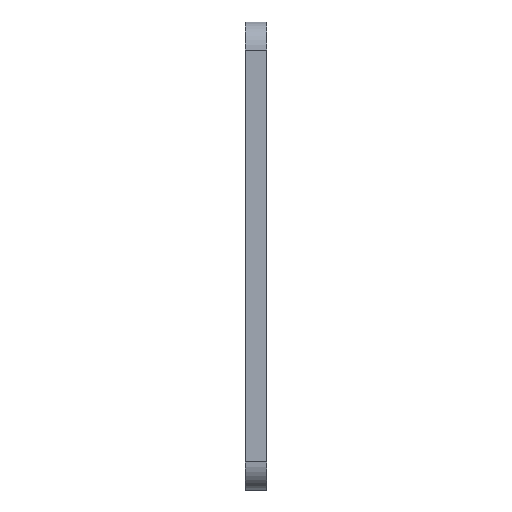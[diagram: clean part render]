
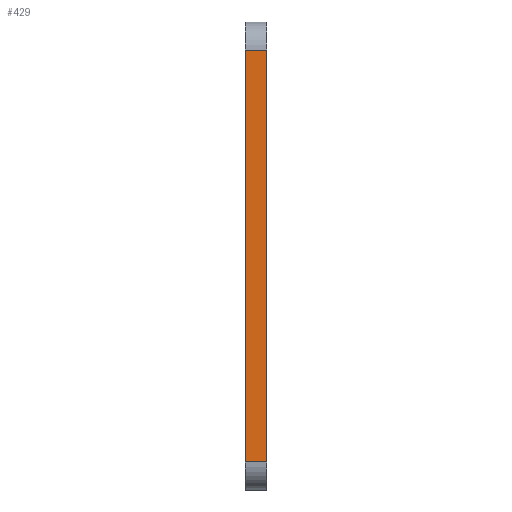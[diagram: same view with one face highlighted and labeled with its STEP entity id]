
A CAD part, left-side view. The second image highlights one B-rep face of the part: STEP entity #429.
In plain terms, the highlighted planar face has unit normal (-1, 0, 0).
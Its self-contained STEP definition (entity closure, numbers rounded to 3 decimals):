
#29 = DIRECTION ( 'NONE',  ( 1., 0., 0. ) ) ;
#47 = CARTESIAN_POINT ( 'NONE',  ( -50., 0., 44. ) ) ;
#118 = ORIENTED_EDGE ( 'NONE', *, *, #419, .T. ) ;
#185 = CARTESIAN_POINT ( 'NONE',  ( -50., 4.5, -44. ) ) ;
#189 = DIRECTION ( 'NONE',  ( 0., 0., 1. ) ) ;
#192 = DIRECTION ( 'NONE',  ( 0., -1., 0. ) ) ;
#224 = EDGE_CURVE ( 'NONE', #322, #930, #959, .T. ) ;
#243 = AXIS2_PLACEMENT_3D ( 'NONE', #1202, #29, #437 ) ;
#261 = EDGE_CURVE ( 'NONE', #1064, #930, #1231, .T. ) ;
#322 = VERTEX_POINT ( 'NONE', #596 ) ;
#344 = PLANE ( 'NONE',  #243 ) ;
#370 = ORIENTED_EDGE ( 'NONE', *, *, #261, .T. ) ;
#419 = EDGE_CURVE ( 'NONE', #623, #1064, #1184, .T. ) ;
#429 = ADVANCED_FACE ( 'NONE', ( #533 ), #344, .F. ) ;
#437 = DIRECTION ( 'NONE',  ( 0., 0., -1. ) ) ;
#468 = CARTESIAN_POINT ( 'NONE',  ( -50., 4.5, -44. ) ) ;
#472 = CARTESIAN_POINT ( 'NONE',  ( -50., 4.5, 44. ) ) ;
#484 = VECTOR ( 'NONE', #192, 1000. ) ;
#533 = FACE_OUTER_BOUND ( 'NONE', #842, .T. ) ;
#555 = CARTESIAN_POINT ( 'NONE',  ( -50., 0., -44. ) ) ;
#596 = CARTESIAN_POINT ( 'NONE',  ( -50., 4.5, 44. ) ) ;
#623 = VERTEX_POINT ( 'NONE', #185 ) ;
#646 = DIRECTION ( 'NONE',  ( 0., 0., 1. ) ) ;
#750 = CARTESIAN_POINT ( 'NONE',  ( -50., 0., -44. ) ) ;
#804 = DIRECTION ( 'NONE',  ( 0., -1., 0. ) ) ;
#817 = ORIENTED_EDGE ( 'NONE', *, *, #1093, .F. ) ;
#833 = ORIENTED_EDGE ( 'NONE', *, *, #224, .F. ) ;
#842 = EDGE_LOOP ( 'NONE', ( #370, #833, #817, #118 ) ) ;
#843 = LINE ( 'NONE', #468, #1217 ) ;
#930 = VERTEX_POINT ( 'NONE', #47 ) ;
#959 = LINE ( 'NONE', #472, #484 ) ;
#1064 = VERTEX_POINT ( 'NONE', #750 ) ;
#1093 = EDGE_CURVE ( 'NONE', #623, #322, #843, .T. ) ;
#1154 = VECTOR ( 'NONE', #646, 1000. ) ;
#1184 = LINE ( 'NONE', #1218, #1256 ) ;
#1202 = CARTESIAN_POINT ( 'NONE',  ( -50., 4.5, -44. ) ) ;
#1217 = VECTOR ( 'NONE', #189, 1000. ) ;
#1218 = CARTESIAN_POINT ( 'NONE',  ( -50., 4.5, -44. ) ) ;
#1231 = LINE ( 'NONE', #555, #1154 ) ;
#1256 = VECTOR ( 'NONE', #804, 1000. ) ;
